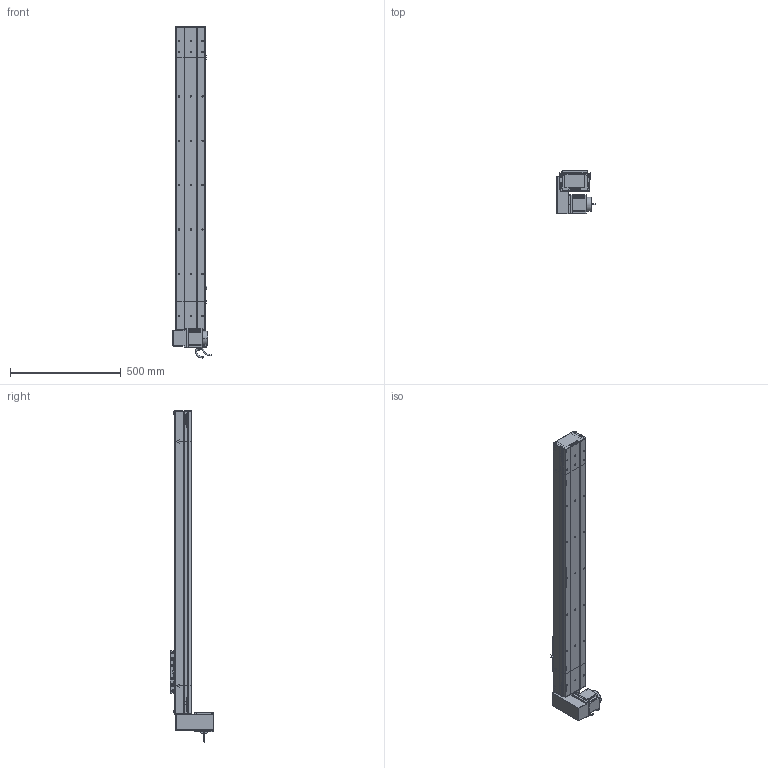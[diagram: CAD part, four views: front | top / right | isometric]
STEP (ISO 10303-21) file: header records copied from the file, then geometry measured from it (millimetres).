
FILE_DESCRIPTION (( 'STEP AP214' ), '1' );
FILE_NAME ('D14 CBH S1100 RU.STEP', '2010-06-30T06:32:03', ( 'Conseil Régional Haute-Normandie' ), ( 'Conseil Régional Haute-Normandie' ), 'SwSTEP 2.0', 'SolidWorks 2010', '' );
FILE_SCHEMA (( 'AUTOMOTIVE_DESIGN' ));
Length unit declared in the file: millimetre
Products named in the file (28): chariot D14; corps GMB 90 70 310; avant GMB 90 70 310; GMB 90 70 310; Conecteur_Default; Conecteur2_Default; codeur GMB 90 70 310; Support moteur Head D14 CBH; plaque fermeture Head D14 CBH; Vis CHC M8; vis CHC M7; plaque de bout Head D14 CBH; corps Head D14 CBH; plaque de maintient CBH D14; couvercle Head D14 CBH; chariot supérieur D14; Head D14 CBH; Head D14 CBH RU; vis CHC M5; charriot inférieur D14; D14 CBH S1100 RU; Tail CBH D14 A; couvercle CBH S1100; corps CBH S1100; D14 CBH S1100; couvercle tail CBH D14; plaque de bout tail CBH d14; corps tail  CBH d14 A
Assembly tree (51 placements, depth 4):
  D14 CBH S1100 RU
    Head D14 CBH RU
      Support moteur Head D14 CBH
      plaque fermeture Head D14 CBH  x3
      Head D14 CBH
        vis CHC M7  x4
        corps Head D14 CBH
        couvercle Head D14 CBH
        Vis CHC M8  x2
        plaque de maintient CBH D14
        plaque de bout Head D14 CBH
      GMB 90 70 310
        corps GMB 90 70 310
        Conecteur2_Default
        avant GMB 90 70 310
        Conecteur_Default
        codeur GMB 90 70 310
    D14 CBH S1100
      corps CBH S1100
      couvercle CBH S1100
      chariot D14
        vis CHC M7  x8
        vis CHC M5  x4
        chariot supérieur D14
        charriot inférieur D14
      Tail CBH D14 A
        vis CHC M7  x4
        plaque de maintient CBH D14
        Vis CHC M8  x2
        plaque de bout tail CBH d14
        couvercle tail CBH D14
        corps tail  CBH d14 A
Bounding box: 171.5 x 195.75 x 1495.95 mm (x, y, z)
Volume: 4928316.5 mm3; surface area: 1519844 mm2
Topology: 51 solids, 51 shells, 2468 faces, 6360 edges, 4180 vertices
Faces by surface type: plane 1371, bspline 538, cylinder 446, torus 61, cone 48, sphere 4
Entity records: 109381 total; most frequent: CARTESIAN_POINT 58186, ORIENTED_EDGE 11016, DIRECTION 8327, EDGE_CURVE 5508, LINE 3669, VECTOR 3669, VERTEX_POINT 3644, EDGE_LOOP 2356
